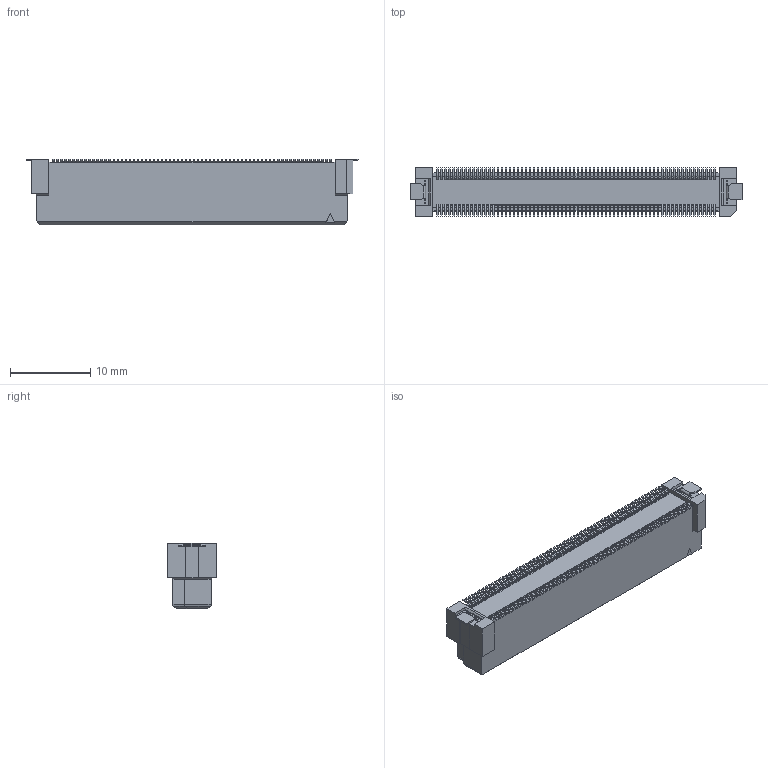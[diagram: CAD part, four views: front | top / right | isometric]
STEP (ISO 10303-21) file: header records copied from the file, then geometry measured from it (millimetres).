
FILE_DESCRIPTION(('Creo Elements/Direct Modeling STEP Export'),'2;1');
FILE_NAME('DT10-140S-10-T.stp','2017-08-11T10:13:39',(''),(''),'Creo Elements/Direct Modeling STEP processor for AP214 (Solid Model)','Creo Elements/Direct Modeling 19.0F 14-Feb-2017 (C) Parametric Technology GmbH','');
FILE_SCHEMA(('AUTOMOTIVE_DESIGN { 1 0 10303 214 1 1 1 1 }'));
Products named in the file (2): DT10-140S-10-T
Assembly tree (1 placements, depth 2):
  DT10-140S-10-T
    DT10-140S-10-T
Bounding box: 41.4 x 6.2 x 8.18 mm (x, y, z)
Volume: 1278.4 mm3; surface area: 2236.3 mm2
Topology: 1 solids, 1 shells, 4891 faces, 13838 edges, 9232 vertices
Faces by surface type: plane 4179, cylinder 712
Entity records: 155017 total; most frequent: ORIENTED_EDGE 27676, CARTESIAN_POINT 27556, DIRECTION 24785, EDGE_CURVE 13838, VECTOR 11863, LINE 11863, VERTEX_POINT 9232, AXIS2_PLACEMENT_3D 6461
